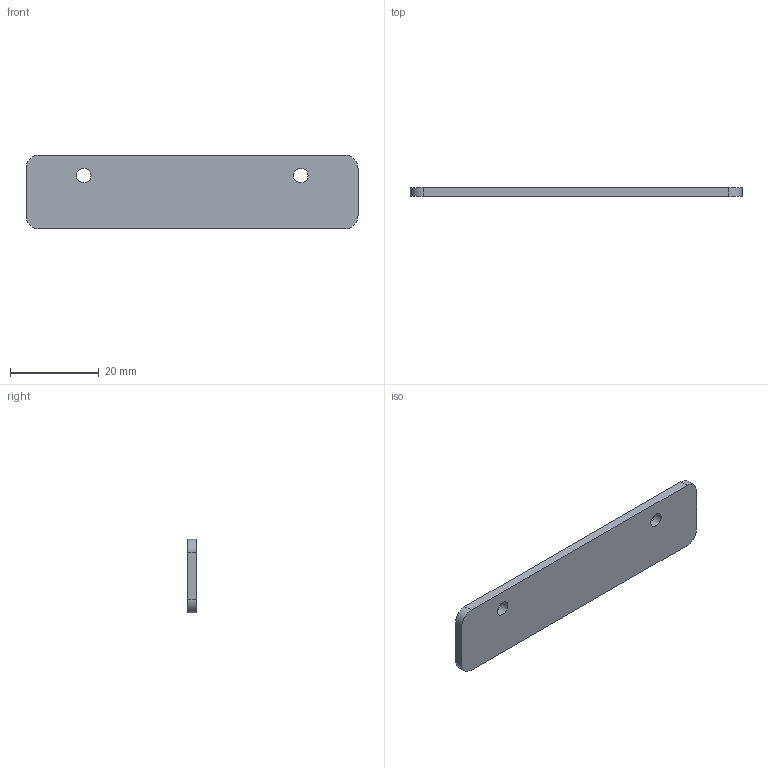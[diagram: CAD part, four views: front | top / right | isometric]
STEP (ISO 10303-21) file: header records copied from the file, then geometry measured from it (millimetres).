
FILE_DESCRIPTION(/* description */ (''),/* implementation_level */ '2;1');
FILE_NAME(/* name */ 'D:/projects/arduino_micro_HID_macro_keyboard/3D CAD files/Transparrent_OLED_Cover.step',/* time_stamp */ '2021-09-17T21:13:05+08:00',/* author */ (''),/* organization */ (''),/* preprocessor_version */ 'ST-DEVELOPER v18.1',/* originating_system */ 'Autodesk Translation Framework v10.10.0.1391',/* authorisation */ '');
FILE_SCHEMA (('AUTOMOTIVE_DESIGN { 1 0 10303 214 3 1 1 }'));
Length unit declared in the file: millimetre
Products named in the file (1): transparrent_lcd cover
Bounding box: 75 x 2 x 16.63 mm (x, y, z)
Volume: 2444.6 mm3; surface area: 2842.3 mm2
Topology: 1 solids, 1 shells, 12 faces, 30 edges, 20 vertices
Faces by surface type: cylinder 6, plane 6
Full cylindrical faces by diameter (mm): 3.3 x2
Entity records: 414 total; most frequent: DIRECTION 68, CARTESIAN_POINT 63, ORIENTED_EDGE 60, EDGE_CURVE 30, AXIS2_PLACEMENT_3D 25, VERTEX_POINT 20, LINE 18, VECTOR 18
